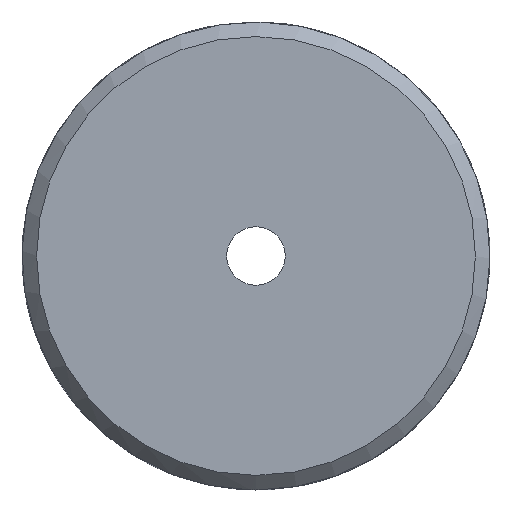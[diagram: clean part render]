
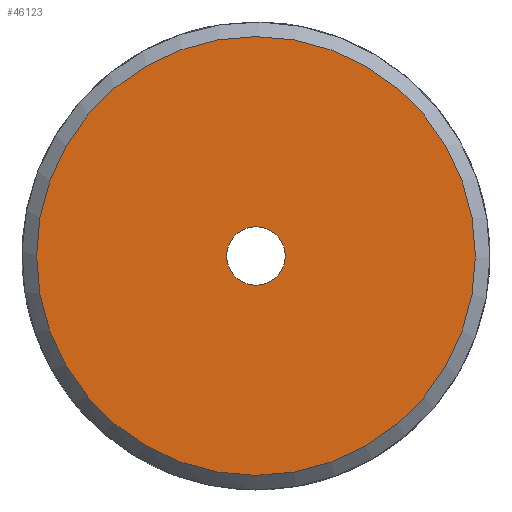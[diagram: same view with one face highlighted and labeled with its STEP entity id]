
A CAD part, left-side view. The second image highlights one B-rep face of the part: STEP entity #46123.
In plain terms, the highlighted planar face has unit normal (-1, 0, 0).
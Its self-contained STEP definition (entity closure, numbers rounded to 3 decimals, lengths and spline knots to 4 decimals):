
#13037=PLANE('',#45543);
#16828=ORIENTED_EDGE('',*,*,#18109,.F.);
#16829=ORIENTED_EDGE('',*,*,#19408,.F.);
#16831=CIRCLE('',#44724,7.5);
#17242=CIRCLE('',#45542,1.);
#17244=VERTEX_POINT('',#21952);
#18107=VERTEX_POINT('',#44717);
#18109=EDGE_CURVE('',#17244,#17244,#16831,.T.);
#19408=EDGE_CURVE('',#18107,#18107,#17242,.T.);
#19853=EDGE_LOOP('',(#16828));
#19854=EDGE_LOOP('',(#16829));
#20299=FACE_BOUND('',#19853,.T.);
#20300=FACE_BOUND('',#19854,.T.);
#20305=DIRECTION('',(1.,0.,0.));
#20306=DIRECTION('',(0.,-7.5,0.));
#21941=DIRECTION('',(-1.,0.,0.));
#21942=DIRECTION('',(0.,0.,1.));
#21943=DIRECTION('',(-1.,0.,0.));
#21944=DIRECTION('',(0.,1.,0.));
#21952=CARTESIAN_POINT('',(0.,-7.5,0.));
#21953=CARTESIAN_POINT('',(0.,0.,0.));
#44717=CARTESIAN_POINT('',(0.,0.,1.));
#44718=CARTESIAN_POINT('',(0.,0.,0.));
#44719=CARTESIAN_POINT('',(0.,-7.5,0.));
#44724=AXIS2_PLACEMENT_3D('',#21953,#20305,#20306);
#45542=AXIS2_PLACEMENT_3D('',#44718,#21941,#21942);
#45543=AXIS2_PLACEMENT_3D('',#44719,#21943,#21944);
#46123=ADVANCED_FACE('',(#20299,#20300),#13037,.T.);
